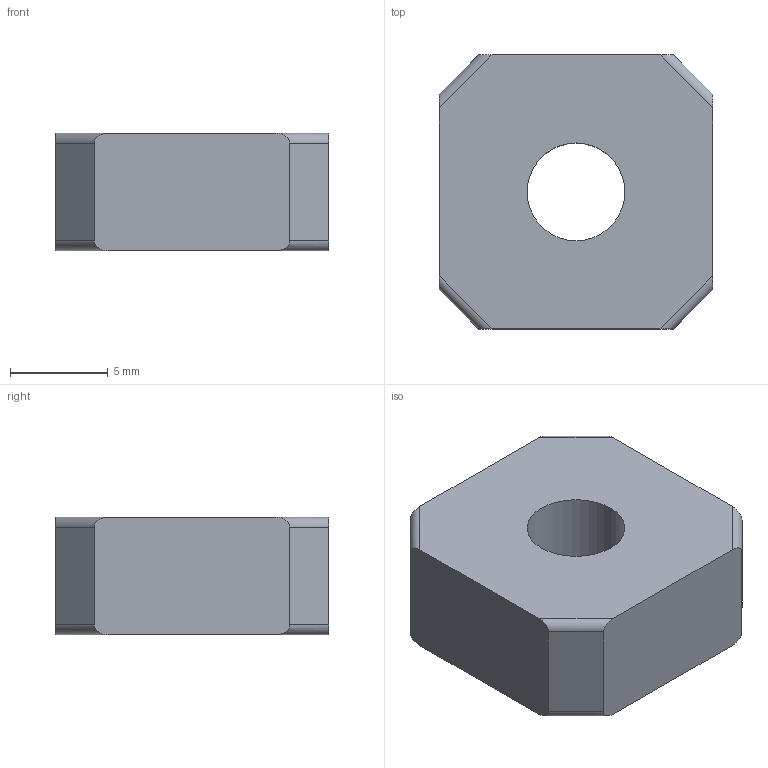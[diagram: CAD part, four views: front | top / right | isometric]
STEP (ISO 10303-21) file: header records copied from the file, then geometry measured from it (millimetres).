
FILE_DESCRIPTION (( 'STEP AP203' ), '1' );
FILE_NAME ('5274.STEP', '2016-04-16T13:25:01', ( '' ), ( '' ), 'SwSTEP 2.0', 'SolidWorks 2014', '' );
FILE_SCHEMA (( 'CONFIG_CONTROL_DESIGN' ));
Length unit declared in the file: millimetre
Products named in the file (1): 5274
Bounding box: 14 x 14 x 6 mm (x, y, z)
Volume: 1008.9 mm3; surface area: 733.1 mm2
Topology: 1 solids, 1 shells, 20 faces, 54 edges, 36 vertices
Faces by surface type: cylinder 10, plane 10
Entity records: 703 total; most frequent: CARTESIAN_POINT 159, ORIENTED_EDGE 108, DIRECTION 84, EDGE_CURVE 54, VERTEX_POINT 36, VECTOR 34, LINE 34, AXIS2_PLACEMENT_3D 25
